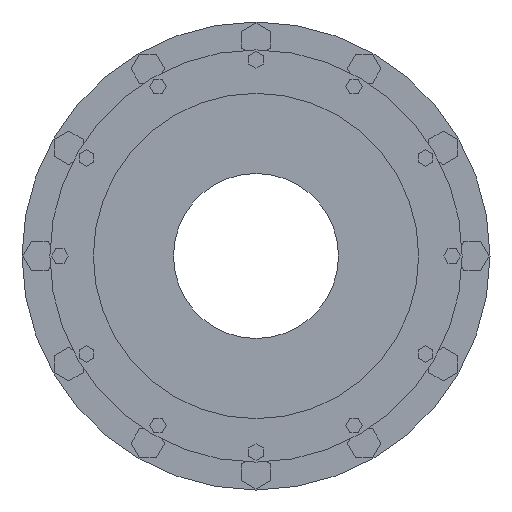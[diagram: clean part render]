
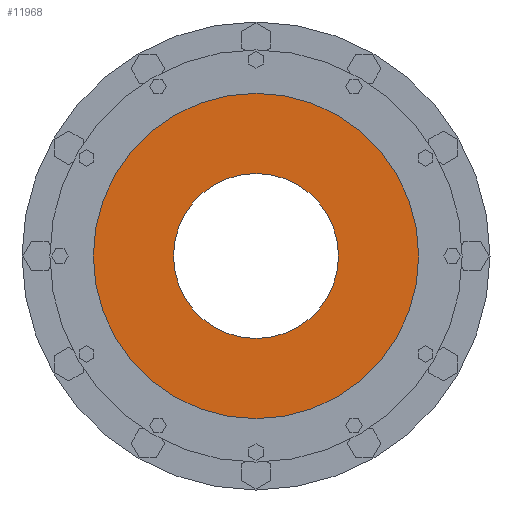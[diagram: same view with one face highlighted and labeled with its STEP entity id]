
A CAD part, left-side view. The second image highlights one B-rep face of the part: STEP entity #11968.
In plain terms, the highlighted planar face has unit normal (-1, 0, 0).
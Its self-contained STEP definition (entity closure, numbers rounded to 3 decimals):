
#11666=CARTESIAN_POINT('',(-495.,0.,0.));
#11667=DIRECTION('',(1.,0.,0.));
#11668=DIRECTION('',(0.,1.,0.));
#11669=AXIS2_PLACEMENT_3D('',#11666,#11667,#11668);
#11745=CARTESIAN_POINT('',(-495.,0.,0.));
#11746=DIRECTION('',(-1.,0.,0.));
#11747=DIRECTION('',(0.,1.,0.));
#11748=AXIS2_PLACEMENT_3D('',#11745,#11746,#11747);
#11750=CARTESIAN_POINT('',(-495.,0.,0.));
#11751=DIRECTION('',(1.,0.,0.));
#11752=DIRECTION('',(0.,1.,0.));
#11753=AXIS2_PLACEMENT_3D('',#11750,#11751,#11752);
#11764=CARTESIAN_POINT('',(-495.,0.,0.));
#11765=DIRECTION('',(-1.,0.,0.));
#11766=DIRECTION('',(0.,1.,0.));
#11767=AXIS2_PLACEMENT_3D('',#11764,#11765,#11766);
#11773=CARTESIAN_POINT('',(-495.,185.,0.));
#11774=CARTESIAN_POINT('',(-495.,-185.,0.));
#11775=VERTEX_POINT('',#11773);
#11776=VERTEX_POINT('',#11774);
#11777=CARTESIAN_POINT('',(-495.,365.,0.));
#11778=CARTESIAN_POINT('',(-495.,-365.,0.));
#11779=VERTEX_POINT('',#11777);
#11780=VERTEX_POINT('',#11778);
#11954=CARTESIAN_POINT('',(-495.,0.,0.));
#11955=DIRECTION('',(1.,0.,0.));
#11956=DIRECTION('',(0.,-1.,0.));
#11957=AXIS2_PLACEMENT_3D('',#11954,#11955,#11956);
#11958=PLANE('',#11957);
#11959=ORIENTED_EDGE('',*,*,#11936,.F.);
#11960=ORIENTED_EDGE('',*,*,#11949,.T.);
#11961=EDGE_LOOP('',(#11959,#11960));
#11962=FACE_OUTER_BOUND('',#11961,.F.);
#11963=ORIENTED_EDGE('',*,*,#11814,.F.);
#11965=ORIENTED_EDGE('',*,*,#11964,.T.);
#11966=EDGE_LOOP('',(#11963,#11965));
#11967=FACE_BOUND('',#11966,.F.);
#11968=ADVANCED_FACE('',(#11962,#11967),#11958,.F.);
#11670=CIRCLE('',#11669,185.);
#11749=CIRCLE('',#11748,365.);
#11754=CIRCLE('',#11753,365.);
#11768=CIRCLE('',#11767,185.);
#11814=EDGE_CURVE('',#11775,#11776,#11670,.T.);
#11936=EDGE_CURVE('',#11779,#11780,#11749,.T.);
#11949=EDGE_CURVE('',#11779,#11780,#11754,.T.);
#11964=EDGE_CURVE('',#11775,#11776,#11768,.T.);
